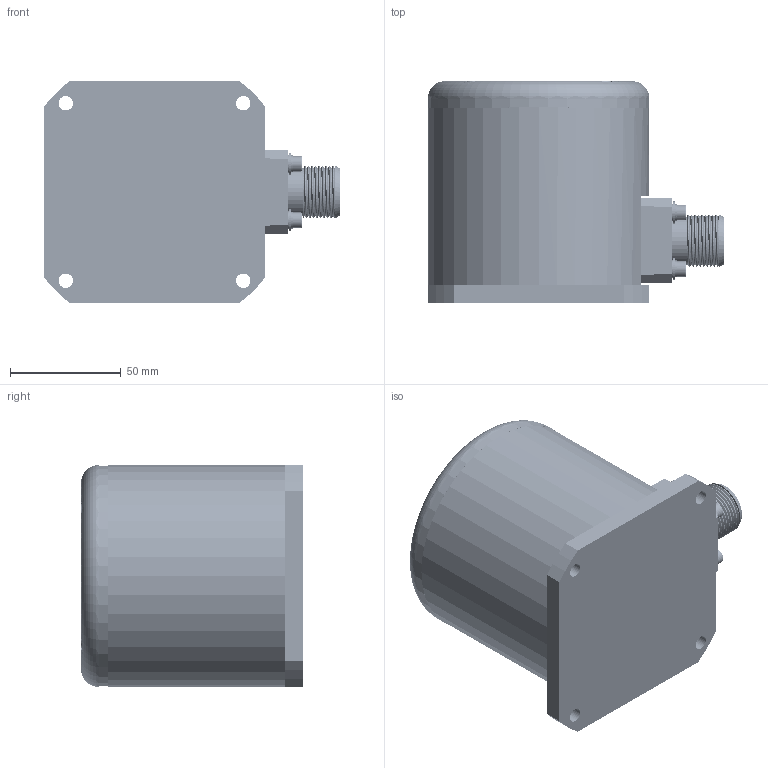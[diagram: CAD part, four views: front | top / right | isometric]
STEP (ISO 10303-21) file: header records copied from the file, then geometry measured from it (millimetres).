
FILE_DESCRIPTION(/* description */ (''),/* implementation_level */ '2;1');
FILE_NAME(/* name */ '106601 v23.step',/* time_stamp */ '2022-11-01T12:10:14+01:00',/* author */ (''),/* organization */ (''),/* preprocessor_version */ 'ST-DEVELOPER v19.2',/* originating_system */ 'Autodesk Translation Framework v11.17.0.187',/* authorisation */ '');
FILE_SCHEMA (('AUTOMOTIVE_DESIGN { 1 0 10303 214 3 1 1 }'));
Length unit declared in the file: millimetre
Products named in the file (69): 106601; 118150; 118151; 100255; 101600; 118152; 118155; Board; Packages; DO214AC; 48LQFP; PQFP44; SOP65P640X120-8; C1210; L3216C; R0805; CTS406; CTS406_1; Model; FID; HXXXX; H1102NL v1; INDUCTOR_74437346056; JP4; Model (1); JST_B2B-PH-K-S(LF)(SN); B2B-PH-K-S v1; JST_B4B-PH-K-S(LF)(SN); JST_B4B-PH-K-S(LF)(SN)_1; B4B-PH-K-S v1; SOP50P490X110-11N; Model (2); C0603; C0805; C1206; R0603; 1-copper; 16-copper; 1-soldermask; 16-soldermask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
Assembly tree (144 placements, depth 7):
  106601
    118150
    118151
    100255  x4
    101600  x4
    118152
      118155
        Board
        Packages
          DO214AC
          48LQFP
          PQFP44
          SOP65P640X120-8
          C1210
          L3216C
          R0805
          CTS406
            Model
          CTS406_1
            Model
          FID  x3
          HXXXX
            H1102NL v1
          INDUCTOR_74437346056
          JP4
            Model (1)
          JST_B2B-PH-K-S(LF)(SN)
            B2B-PH-K-S v1
          JST_B4B-PH-K-S(LF)(SN)
            B4B-PH-K-S v1
          JST_B4B-PH-K-S(LF)(SN)_1
            B4B-PH-K-S v1
          SOP50P490X110-11N
            Model (2)
          C0603  x16
          C0805  x2
          C1206  x2
          R0603  x16
        1-copper
        16-copper
        1-soldermask
        16-soldermask
    100146  x4
    116497  x4
    118153
      118154
        Board_1
        Packages_1
          JST_B4B-PH-K-S(LF)(SN)_2
            B4B-PH-K-S v1_1
          VN-100
            vn100_smd v1
              vn100_pcb
              vn100_shield
          C0603_1
          C0805_1
        1-copper_1
        16-copper_1
        1-soldermask_1
        16-soldermask_1
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Bounding box: 133.75 x 100 x 100 mm (x, y, z)
Volume: 638903.9 mm3; surface area: 150063 mm2
Topology: 788 solids, 788 shells, 15571 faces, 39487 edges, 25716 vertices
Faces by surface type: plane 11911, cylinder 2845, bspline 384, sphere 264, cone 112, torus 55
Full cylindrical faces by diameter (mm): 0.24 x2, 0.3 x4, 0.43 x163, 0.48 x3, 0.5 x106, 0.55 x2, 0.63 x60, 0.635 x4, 0.7 x24, 0.79 x10, 0.844 x40, 0.86 x4, 0.914 x16, 1.194 x1, 1.27 x3, 1.3 x8, 2.459 x4, 2.529 x8, 2.693 x4, 2.927 x4, 3 x12, 3.13 x40, 3.2 x16, 4 x12, 4.5 x4, 4.7 x4, 5 x4, 5.2 x4, 5.5 x4, 5.563 x4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
Entity records: 385729 total; most frequent: CARTESIAN_POINT 72526, ORIENTED_EDGE 64210, DIRECTION 61196, EDGE_CURVE 32105, LINE 27294, VECTOR 27294, VERTEX_POINT 21216, AXIS2_PLACEMENT_3D 16951
